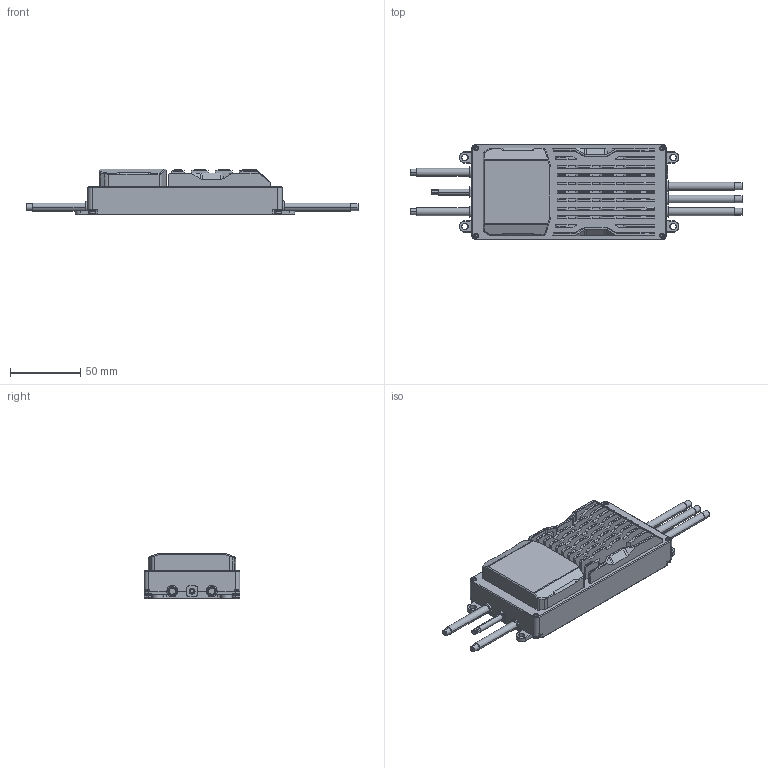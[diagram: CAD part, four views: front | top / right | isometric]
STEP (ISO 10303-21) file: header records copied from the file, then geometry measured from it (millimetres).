
FILE_DESCRIPTION((''),'2;1');
FILE_NAME('MK1','2025-06-05T17:56:02',('221126'),(''),'CREO PARAMETRIC BY PTC INC, 2021284','CREO PARAMETRIC BY PTC INC, 2021284','');
FILE_SCHEMA(('AUTOMOTIVE_DESIGN { 1 0 10303 214 1 1 1 1 }'));
Products named in the file (1): MK1
Bounding box: 235.9 x 68 x 32.5 mm (x, y, z)
Volume: 81511.3 mm3; surface area: 90491.6 mm2
Topology: 1 solids, 1 shells, 3549 faces, 9137 edges, 5879 vertices
Faces by surface type: plane 2462, cylinder 687, cone 294, bspline 98, sphere 8
Entity records: 155669 total; most frequent: CARTESIAN_POINT 40950, ORIENTED_EDGE 18274, DIRECTION 16915, PRESENTATION_STYLE_ASSIGNMENT 9238, STYLED_ITEM 9138, CURVE_STYLE 9137, EDGE_CURVE 9137, VECTOR 6781
